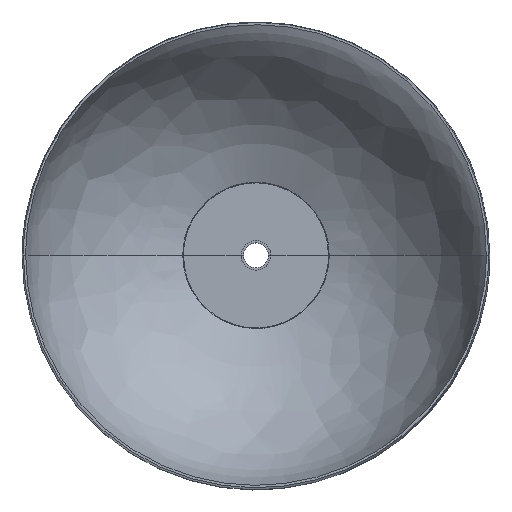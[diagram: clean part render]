
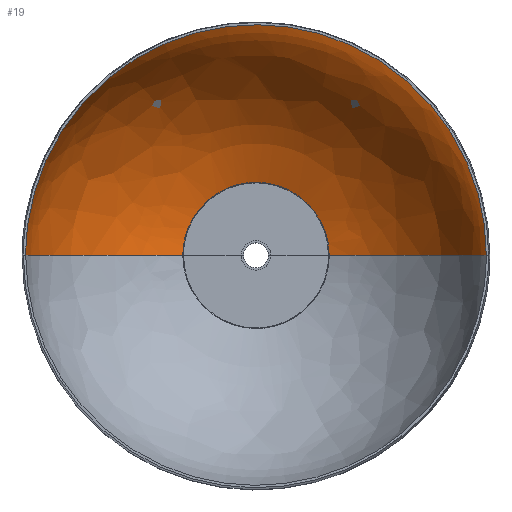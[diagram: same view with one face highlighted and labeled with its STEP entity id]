
A CAD part, top view. The second image highlights one B-rep face of the part: STEP entity #19.
In plain terms, the highlighted free-form (B-spline) face has degree [2, 2] with [5, 3] control points.
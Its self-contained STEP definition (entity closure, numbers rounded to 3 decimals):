
#19=ADVANCED_FACE('',(#47),#355,.T.);
#47=FACE_OUTER_BOUND('',#75,.T.);
#75=EDGE_LOOP('',(#115,#116,#117,#118));
#115=ORIENTED_EDGE('',*,*,#248,.T.);
#116=ORIENTED_EDGE('',*,*,#229,.F.);
#117=ORIENTED_EDGE('',*,*,#223,.F.);
#118=ORIENTED_EDGE('',*,*,#228,.T.);
#223=EDGE_CURVE('',#334,#333,#290,.T.);
#228=EDGE_CURVE('',#334,#341,#294,.T.);
#229=EDGE_CURVE('',#333,#342,#295,.T.);
#248=EDGE_CURVE('',#341,#342,#312,.T.);
#290=(
BOUNDED_CURVE()
B_SPLINE_CURVE(2,(#804,#805,#806),.UNSPECIFIED.,.F.,.F.)
B_SPLINE_CURVE_WITH_KNOTS((3,3),(966.398,1138.714),
 .UNSPECIFIED.)
CURVE()
GEOMETRIC_REPRESENTATION_ITEM()
RATIONAL_B_SPLINE_CURVE((1.,0.838,1.))
REPRESENTATION_ITEM('')
);
#294=(
BOUNDED_CURVE()
B_SPLINE_CURVE(2,(#822,#823,#824,#825,#826),.UNSPECIFIED.,.F.,.F.)
B_SPLINE_CURVE_WITH_KNOTS((3,2,3),(0.,235.619,471.239),
 .UNSPECIFIED.)
CURVE()
GEOMETRIC_REPRESENTATION_ITEM()
RATIONAL_B_SPLINE_CURVE((1.,0.707,1.,0.707,1.))
REPRESENTATION_ITEM('')
);
#295=(
BOUNDED_CURVE()
B_SPLINE_CURVE(2,(#827,#828,#829,#830,#831),.UNSPECIFIED.,.F.,.F.)
B_SPLINE_CURVE_WITH_KNOTS((3,2,3),(0.,235.619,471.239),
 .UNSPECIFIED.)
CURVE()
GEOMETRIC_REPRESENTATION_ITEM()
RATIONAL_B_SPLINE_CURVE((1.,0.707,1.,0.707,1.))
REPRESENTATION_ITEM('')
);
#312=(
BOUNDED_CURVE()
B_SPLINE_CURVE(2,(#912,#913,#914),.UNSPECIFIED.,.F.,.F.)
B_SPLINE_CURVE_WITH_KNOTS((3,3),(966.398,1138.714),
 .UNSPECIFIED.)
CURVE()
GEOMETRIC_REPRESENTATION_ITEM()
RATIONAL_B_SPLINE_CURVE((1.,0.838,1.))
REPRESENTATION_ITEM('')
);
#333=VERTEX_POINT('',#755);
#334=VERTEX_POINT('',#756);
#341=VERTEX_POINT('',#763);
#342=VERTEX_POINT('',#764);
#355=(
BOUNDED_SURFACE()
B_SPLINE_SURFACE(2,2,((#455,#456,#457),(#458,#459,#460),(#461,#462,#463),
(#464,#465,#466),(#467,#468,#469)),.UNSPECIFIED.,.F.,.F.,.F.)
B_SPLINE_SURFACE_WITH_KNOTS((3,2,3),(3,3),(0.,235.619,471.239),
(966.398,1138.714),.UNSPECIFIED.)
GEOMETRIC_REPRESENTATION_ITEM()
RATIONAL_B_SPLINE_SURFACE(((1.,0.838,1.),(0.707,
0.593,0.707),(1.,0.838,1.),(0.707,
0.593,0.707),(1.,0.838,1.)))
REPRESENTATION_ITEM('')
SURFACE()
);
#455=CARTESIAN_POINT('',(147.744,0.,433.061));
#456=CARTESIAN_POINT('',(138.024,0.,337.327));
#457=CARTESIAN_POINT('',(46.534,0.,307.508));
#458=CARTESIAN_POINT('',(147.744,147.744,433.061));
#459=CARTESIAN_POINT('',(138.024,138.024,337.327));
#460=CARTESIAN_POINT('',(46.534,46.534,307.508));
#461=CARTESIAN_POINT('',(0.,147.744,433.061));
#462=CARTESIAN_POINT('',(0.,138.024,337.327));
#463=CARTESIAN_POINT('',(0.,46.534,307.508));
#464=CARTESIAN_POINT('',(-147.744,147.744,433.061));
#465=CARTESIAN_POINT('',(-138.024,138.024,337.327));
#466=CARTESIAN_POINT('',(-46.534,46.534,307.508));
#467=CARTESIAN_POINT('',(-147.744,0.,433.061));
#468=CARTESIAN_POINT('',(-138.024,0.,337.327));
#469=CARTESIAN_POINT('',(-46.534,0.,307.508));
#755=CARTESIAN_POINT('',(46.534,0.,307.508));
#756=CARTESIAN_POINT('',(147.744,0.,433.061));
#763=CARTESIAN_POINT('',(-147.744,0.,433.061));
#764=CARTESIAN_POINT('',(-46.534,0.,307.508));
#804=CARTESIAN_POINT('',(147.744,0.,433.061));
#805=CARTESIAN_POINT('',(138.024,0.,337.327));
#806=CARTESIAN_POINT('',(46.534,0.,307.508));
#822=CARTESIAN_POINT('',(147.744,0.,433.061));
#823=CARTESIAN_POINT('',(147.744,147.744,433.061));
#824=CARTESIAN_POINT('',(0.,147.744,433.061));
#825=CARTESIAN_POINT('',(-147.744,147.744,433.061));
#826=CARTESIAN_POINT('',(-147.744,0.,433.061));
#827=CARTESIAN_POINT('',(46.534,0.,307.508));
#828=CARTESIAN_POINT('',(46.534,46.534,307.508));
#829=CARTESIAN_POINT('',(0.,46.534,307.508));
#830=CARTESIAN_POINT('',(-46.534,46.534,307.508));
#831=CARTESIAN_POINT('',(-46.534,0.,307.508));
#912=CARTESIAN_POINT('',(-147.744,0.,433.061));
#913=CARTESIAN_POINT('',(-138.024,0.,337.327));
#914=CARTESIAN_POINT('',(-46.534,0.,307.508));
